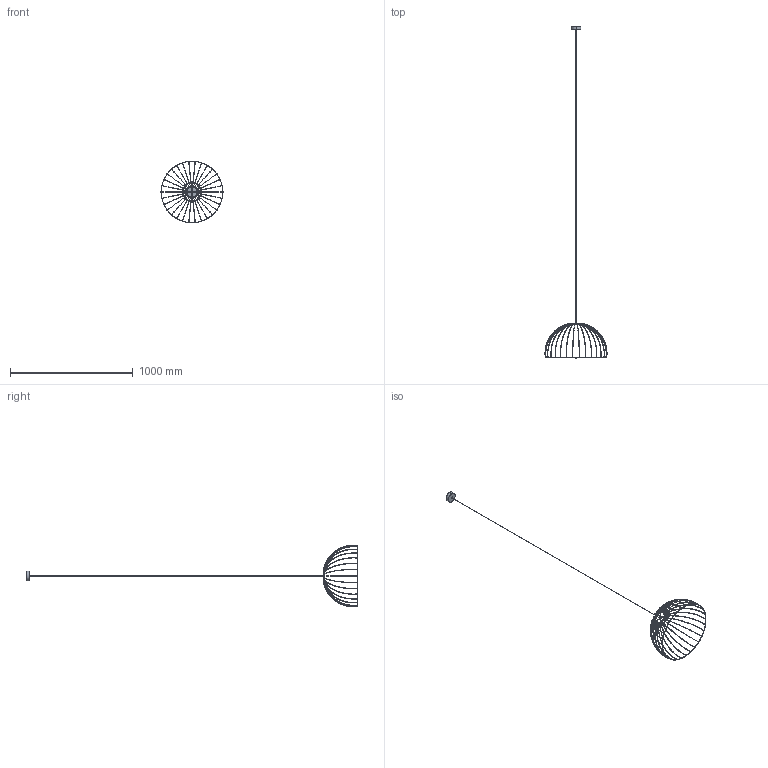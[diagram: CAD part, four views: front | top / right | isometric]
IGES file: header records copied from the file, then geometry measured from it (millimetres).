
Start section: SolidWorks IGES file using analytic representation for surfaces
Global section: file name: C:\Users\danielet\Desktop\3D CARLOS\SAMIRA-C3932-3D\SAMIRA-C3932-3D.IGS; native system: SolidWorks 2018; preprocessor: SolidWorks 2018; author: danielet; date: 211126.083809; units: millimetre
Bounding box: 505.88 x 2706 x 503.11 mm (x, y, z)
Surface area: 119759.4 mm2 (no closed solid volume)
Topology: 0 solids, 0 shells, 193 faces, 4720 edges, 4704 vertices
Faces by surface type: bspline 151, revolution 42
